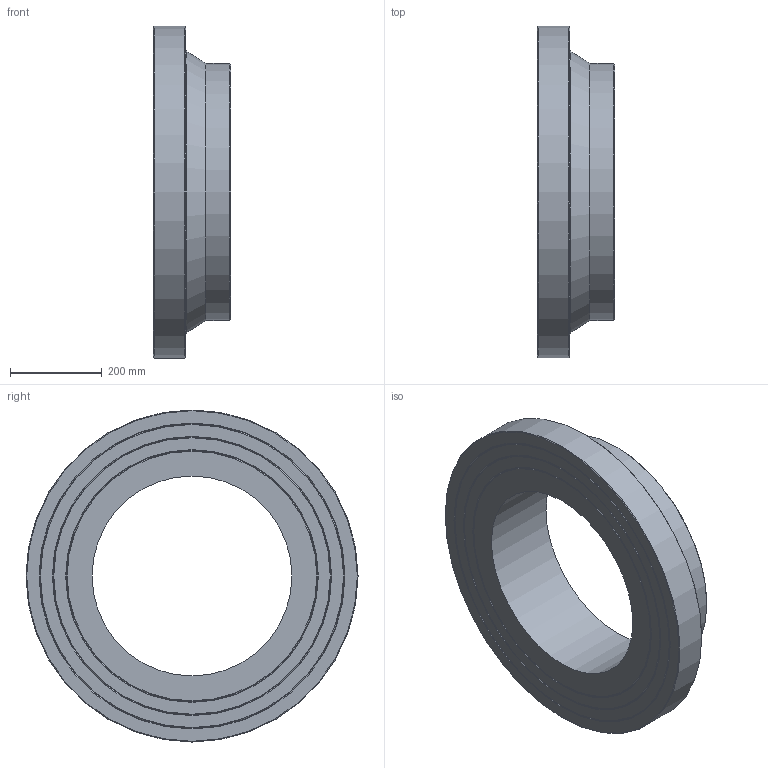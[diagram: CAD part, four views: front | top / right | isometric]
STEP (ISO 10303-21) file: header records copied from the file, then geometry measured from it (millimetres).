
FILE_DESCRIPTION(/* description */ ('Unknown'),/* implementation_level */ '2;1');
FILE_NAME(/* name */ 'CCP560G',/* time_stamp */ '2022-04-04T14:28:34+02:00',/* author */ ('Unknown'),/* organization */ ('Unknown'),/* preprocessor_version */ 'ST-DEVELOPER v18.1',/* originating_system */ 'Solid Edge',/* authorisation */ 'Unknown');
FILE_SCHEMA (('AUTOMOTIVE_DESIGN {1 0 10303 214 3 1 1}'));
Length unit declared in the file: millimetre
Products named in the file (1): CCP560G
Bounding box: 168 x 723 x 723 mm (x, y, z)
Volume: 28944999.7 mm3; surface area: 1048539.5 mm2
Topology: 1 solids, 1 shells, 20 faces, 35 edges, 21 vertices
Faces by surface type: cone 10, plane 6, cylinder 3, torus 1
Full cylindrical faces by diameter (mm): 435.4 x1, 560 x1, 723 x1
Entity records: 438 total; most frequent: DIRECTION 82, CARTESIAN_POINT 61, AXIS2_PLACEMENT_3D 41, ORIENTED_EDGE 40, EDGE_LOOP 40, FACE_BOUND 40, EDGE_CURVE 20, VERTEX_POINT 20
